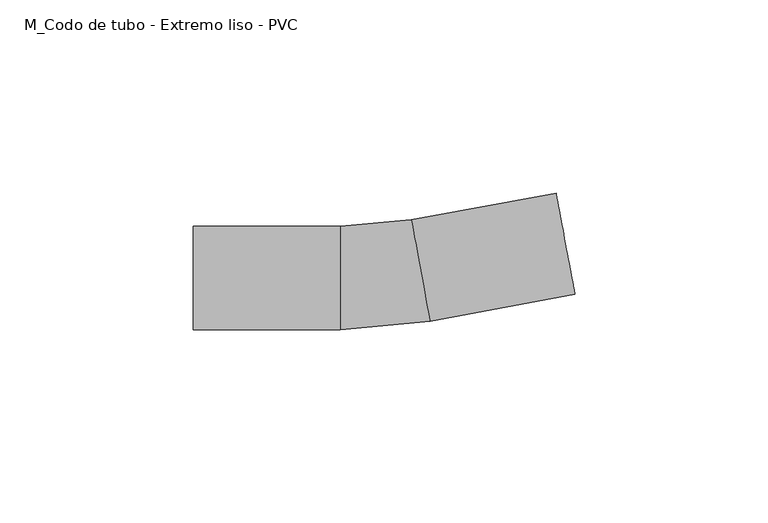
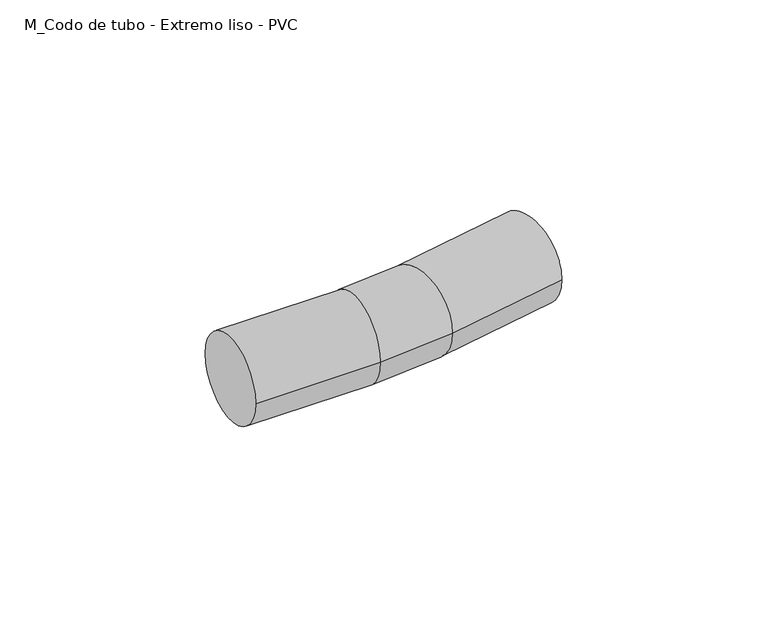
"""IFC4 building model written with IfcOpenShell, lengths in millimetres: cable carrier fitting geometry, M_Codo de tubo - Extremo liso - PVC : CODO ILUMINACION."""

from ifc_helpers import new_model, si_unit, point, frame, origin, place, context, project, spatial, circle_curve, ellipse_curve, trimmed, source, transform, mapped, element, save
from ifc_brep_helpers import plane_surface, cylinder_surface, revolved_surface, advanced_brep


def m_codo_de_tubo_extremo_liso_pvc_c2ac5335(model_context):
    return source(origin(), model_context, "Body", "AdvancedBrep", [
        advanced_brep(
        [(-48.5857758, -13.335, 0.0), (-48.5857758, 13.335, 0.0), (-10.4857758, -13.335, 0.0), (-10.4857758, 13.335, 0.0), (7.8844896, 15.0202711, 0.0), (12.7370125, -11.204563, 0.0), (50.2010611, -4.2723874, 0.0), (45.3485382, 21.9524467, 0.0)],
        [
            (0, 1, circle_curve(frame((-48.5857758, 0.0, 0.0), z_axis=(-1.0, 0.0, 0.0), x_axis=(0.0, 1.0, 0.0)), 13.335)),
            (1, 0, circle_curve(frame((-48.5857758, 0.0, 0.0), z_axis=(-1.0, 0.0, 0.0), x_axis=(0.0, 1.0, 0.0)), 13.335)),
            (0, 2),
            (2, 3, circle_curve(frame((-10.4857758, 0.0, 0.0), z_axis=(-1.0, 0.0, 0.0), x_axis=(0.0, 1.0, 0.0)), 13.335)),
            (3, 1),
            (3, 2, circle_curve(frame((-10.4857758, 0.0, 0.0), z_axis=(-1.0, 0.0, 0.0), x_axis=(0.0, 1.0, 0.0)), 13.335)),
            (4, 3, circle_curve(frame((-10.4857758, 114.3, 0.0), z_axis=(0.0, 0.0, -1.0), x_axis=(0.0, -1.0, 0.0)), 100.965)),
            (2, 5, circle_curve(frame((-10.4857758, 114.3, 0.0), z_axis=(0.0, 0.0, 1.0), x_axis=(0.0, -1.0, 0.0)), 127.635)),
            (5, 4, circle_curve(frame((10.310751, 1.907854, 0.0), z_axis=(-0.9833083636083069, -0.18194686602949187, 0.0), x_axis=(-0.18194686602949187, 0.9833083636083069, 0.0)), 13.335)),
            (4, 5, circle_curve(frame((10.310751, 1.907854, 0.0), z_axis=(-0.9833083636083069, -0.18194686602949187, 0.0), x_axis=(-0.18194686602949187, 0.9833083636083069, 0.0)), 13.335)),
            (6, 7, circle_curve(frame((47.7747997, 8.8400296, 0.0), z_axis=(0.9833083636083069, 0.1819468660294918, 0.0), x_axis=(-0.1819468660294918, 0.9833083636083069, 0.0)), 13.335)),
            (7, 6, circle_curve(frame((47.7747997, 8.8400296, 0.0), z_axis=(0.9833083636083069, 0.1819468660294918, 0.0), x_axis=(-0.1819468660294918, 0.9833083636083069, 0.0)), 13.335)),
            (5, 6),
            (7, 4),
        ],
        [
            plane_surface(frame((-48.5857758, 0.0, 0.0), z_axis=(-1.0, 0.0, 0.0), x_axis=(0.0, 0.0, 1.0))),
            cylinder_surface(frame((-48.5857758, 0.0, 0.0), z_axis=(-1.0, 0.0, 0.0), x_axis=(0.0, 1.0, 0.0)), 13.335),
            revolved_surface(trimmed(ellipse_curve(frame((-10.4857758, 0.0, 0.0), z_axis=(-1.0, 0.0, 0.0), x_axis=(0.0, 1.0, 0.0)), 13.335, 13.335), [point((-10.4857758, -13.335, 0.0))], [point((-10.4857758, 13.335, 0.0))], True, "CARTESIAN"), (-10.4857758, 114.3, 0.0), (0.0, 0.0, 1.0)),
            revolved_surface(trimmed(ellipse_curve(frame((-10.4857758, 0.0, 0.0), z_axis=(-1.0, 0.0, 0.0), x_axis=(0.0, 1.0, 0.0)), 13.335, 13.335), [point((-10.4857758, 13.335, 0.0))], [point((-10.4857758, -13.335, 0.0))], True, "CARTESIAN"), (-10.4857758, 114.3, 0.0), (0.0, 0.0, 1.0)),
            plane_surface(frame((47.7747997, 8.8400296, 0.0), z_axis=(0.9833083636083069, 0.18194686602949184, 0.0), x_axis=(0.0, 0.0, 1.0))),
            cylinder_surface(frame((10.310751, 1.907854, 0.0), z_axis=(-0.9833083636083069, -0.1819468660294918, 0.0), x_axis=(-0.1819468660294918, 0.9833083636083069, 0.0)), 13.335),
        ],
        [
            (0, [[1, 2]]),
            (1, [[-1, 3, 4, 5]]),
            (1, [[-2, -5, 6, -3]]),
            (2, [[7, -4, 8, 9]]),
            (3, [[-8, -6, -7, 10]]),
            (4, [[11, 12]]),
            (5, [[-9, 13, -12, 14]]),
            (5, [[-10, -14, -11, -13]]),
        ],
    ),
    ])


if __name__ == "__main__":
    model = new_model("IFC4")
    model_context = context("Model", 3, world=origin())
    ifc_project = project(units=[si_unit("LENGTHUNIT", "METRE", prefix="MILLI")], contexts=[model_context])
    site = spatial("IfcSite", under=ifc_project)
    building = spatial("IfcBuilding", under=site)
    placement = place(None, origin())
    m_codo_de_tubo_extremo_liso_pvc_shape = m_codo_de_tubo_extremo_liso_pvc_c2ac5335(model_context)
    element("IfcCableCarrierFitting", 1, ObjectType="M_Codo de tubo - Extremo liso - PVC : CODO ILUMINACION", at=placement, inside=building, context=model_context, shape_type="MappedRepresentation", body=[
        mapped(m_codo_de_tubo_extremo_liso_pvc_shape, transform((0.0, 0.0, 0.0), x_axis=(1.0, 0.0, 0.0), y_axis=(0.0, 1.0, 0.0), z_axis=(0.0, 0.0, 1.0))),
    ])
    save(model, "model.ifc")
